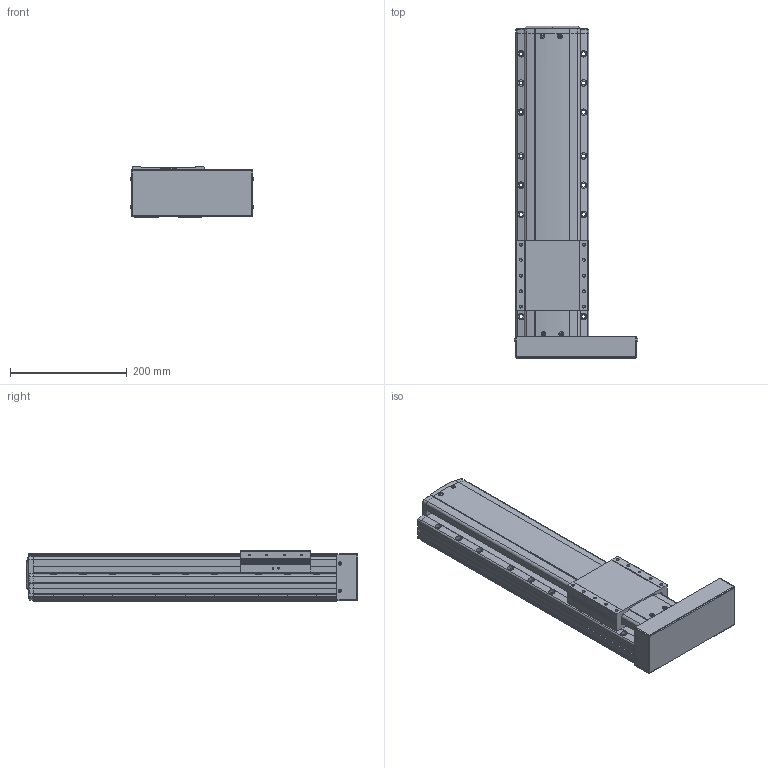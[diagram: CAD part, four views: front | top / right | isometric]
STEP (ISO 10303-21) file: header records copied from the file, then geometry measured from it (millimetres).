
FILE_DESCRIPTION(('STEP AP214'),'1');
FILE_NAME('Z:/Web/3D/PSA125/STP/PSA125-300 (3D)/PSA125ㅁㅁ-300PR.stp','2014-06-22T23:38:15',(' '),(' '),'Spatial InterOp 3D',' ',' ');
FILE_SCHEMA(('automotive_design'));
Length unit declared in the file: millimetre
Products named in the file (23): 스크루 : Round - M4.0 x 10.0; RRCV-PA120; SLIDE; BASE; FRCV-PA120-1(기준 뿔 제거); RR1500; 스크루 : Round - M4.0 x 6.0; 너트 : Square - M10.0 x 220.7419; BTCV - 60A; 스크루 : Round - M3.0 x 6.0
Bounding box: 212.13 x 568.6 x 86 mm (x, y, z)
Volume: 5137324.3 mm3; surface area: 468101.9 mm2
Topology: 23 solids, 23 shells, 1946 faces, 5217 edges, 3318 vertices
Faces by surface type: plane 1054, cylinder 580, cone 212, sphere 44, bspline 31, torus 25
Entity records: 78046 total; most frequent: CARTESIAN_POINT 13152, DIRECTION 10309, ORIENTED_EDGE 10174, EDGE_CURVE 5087, AXIS2_PLACEMENT_3D 3448, LINE 3413, VECTOR 3413, VERTEX_POINT 3318
